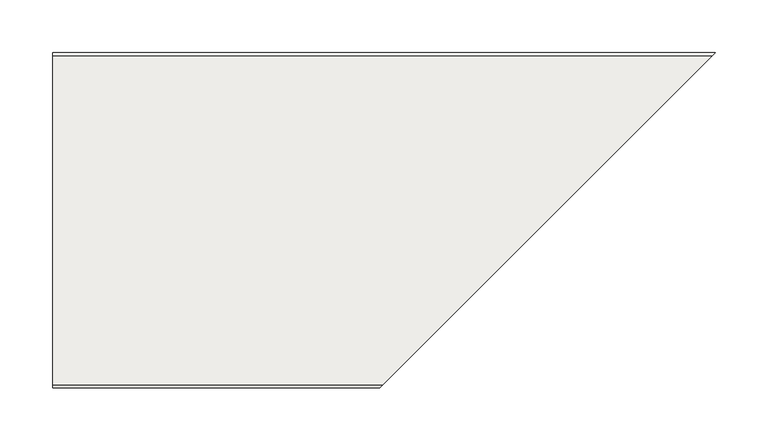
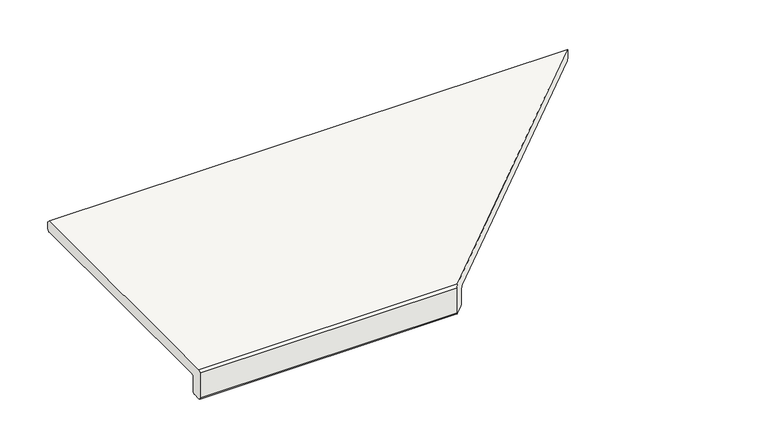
"""IFC4 building model written with IfcOpenShell, lengths in millimetres: slab geometry, ROSA GRES_L62 (corte) : Pieza L62_Serena_Ocra_Anti-Slip."""

from ifc_helpers import new_model, si_unit, frame, origin, place, context, project, spatial, polyline, circle_curve, ellipse_curve, source, transform, mapped, element, save
from ifc_brep_helpers import plane_surface, cylinder_surface, revolved_surface, advanced_brep


def slab_b6999f09(model_context):
    return source(origin(), model_context, "Body", "AdvancedBrep", [
        advanced_brep(
        [(0.0, 0.0, -20.5), (0.0, 0.0, 11.5), (0.0, 2.5, 14.0), (0.0, 314.5, 14.0), (0.0, 317.0, 11.5), (0.0, 317.0, 2.5), (0.0, 314.5, 0.0), (0.0, 16.5, 0.0), (0.0, 14.0, -2.5), (0.0, 14.0, -20.5), (0.0, 11.5, -23.0), (0.0, 2.5, -23.0), (308.5, 0.0, 11.5), (311.0, 2.5, 14.0), (623.0, 314.5, 14.0), (625.5, 317.0, 11.5), (320.0, 11.5, -23.0), (311.0, 2.5, -23.0), (625.5, 317.0, 2.5), (623.0, 314.5, 0.0), (308.5, 0.0, -20.5), (322.5, 14.0, -20.5), (325.0, 16.5, 0.0), (322.5, 14.0, -2.5)],
        [
            (0, 1),
            (1, 2),
            (2, 3),
            (3, 4),
            (4, 5),
            (5, 6, circle_curve(frame((0.0, 314.5, 2.5), z_axis=(-1.0, 0.0, 0.0), x_axis=(0.0, 0.0, -1.0)), 2.5)),
            (6, 7),
            (7, 8, circle_curve(frame((0.0, 16.5, -2.5), z_axis=(1.0, 0.0, 0.0), x_axis=(0.0, 0.0, -1.0)), 2.5)),
            (8, 9),
            (9, 10, circle_curve(frame((0.0, 11.5, -20.5), z_axis=(-1.0, 0.0, 0.0), x_axis=(0.0, 0.0, -1.0)), 2.5)),
            (10, 11),
            (11, 0, circle_curve(frame((0.0, 2.5, -20.5), z_axis=(-1.0, 0.0, 0.0), x_axis=(0.0, 0.0, -1.0)), 2.5)),
            (1, 12),
            (12, 13),
            (13, 2),
            (3, 14),
            (14, 15),
            (15, 4),
            (10, 16),
            (16, 17),
            (17, 11),
            (5, 18),
            (18, 19, ellipse_curve(frame((623.0, 314.5, 2.5), z_axis=(-0.7071067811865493, 0.7071067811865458, 0.0), x_axis=(-0.7071067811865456, -0.7071067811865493, 0.0)), 3.5355339, 2.5)),
            (19, 6),
            (15, 18),
            (0, 20),
            (20, 12),
            (17, 20, ellipse_curve(frame((311.0, 2.5, -20.5), z_axis=(-0.7071067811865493, 0.7071067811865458, 0.0), x_axis=(-0.7071067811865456, -0.7071067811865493, 0.0)), 3.5355339, 2.5)),
            (9, 21),
            (21, 16, ellipse_curve(frame((320.0, 11.5, -20.5), z_axis=(-0.7071067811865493, 0.7071067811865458, 0.0), x_axis=(-0.7071067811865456, -0.7071067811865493, 0.0)), 3.5355339, 2.5)),
            (13, 14),
            (19, 22),
            (22, 7),
            (22, 23, ellipse_curve(frame((325.0, 16.5, -2.5), z_axis=(0.7071067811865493, -0.7071067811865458, 0.0), x_axis=(0.7071067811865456, 0.7071067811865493, 0.0)), 3.5355339, 2.5)),
            (23, 8),
            (23, 21),
        ],
        [
            plane_surface(frame((0.0, 0.0, 0.0), z_axis=(-1.0, 0.0, 0.0), x_axis=(0.0, 0.0, 1.0))),
            plane_surface(frame((0.0, 0.0, 11.5), z_axis=(0.0, -0.707106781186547, 0.7071067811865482), x_axis=(1.0, 0.0, 0.0))),
            plane_surface(frame((0.0, 314.5, 14.0), z_axis=(0.0, 0.707106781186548, 0.707106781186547), x_axis=(1.0, 0.0, 0.0))),
            plane_surface(frame((0.0, 11.5, -23.0), z_axis=(0.0, 0.0, -1.0), x_axis=(1.0, 0.0, 0.0))),
            cylinder_surface(frame((0.0, 314.5, 2.5), z_axis=(-1.0, 0.0, 0.0), x_axis=(0.0, 0.0, -1.0)), 2.5),
            plane_surface(frame((0.0, 317.0, 11.5), z_axis=(0.0, 1.0, 0.0), x_axis=(1.0, 0.0, 0.0))),
            plane_surface(frame((0.0, 0.0, -20.5), z_axis=(0.0, -1.0, 0.0), x_axis=(1.0, 0.0, 0.0))),
            cylinder_surface(frame((0.0, 2.5, -20.5), z_axis=(-1.0, 0.0, 0.0), x_axis=(0.0, 0.0, -1.0)), 2.5),
            cylinder_surface(frame((0.0, 11.5, -20.5), z_axis=(-1.0, 0.0, 0.0), x_axis=(0.0, 0.0, -1.0)), 2.5),
            plane_surface(frame((0.0, 2.5, 14.0), z_axis=(0.0, 0.0, 1.0), x_axis=(1.0, 0.0, 0.0))),
            plane_surface(frame((0.0, 314.5, 0.0), z_axis=(0.0, 0.0, -1.0), x_axis=(1.0, 0.0, 0.0))),
            revolved_surface(polyline([(327.4999999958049, 16.5, -5.0), (0.0, 16.5, -5.0)]), (0.0, 16.5, -2.5), (1.0, 0.0, 0.0)),
            plane_surface(frame((0.0, 14.0, -2.5), z_axis=(0.0, 1.0, 0.0), x_axis=(1.0, 0.0, 0.0))),
            plane_surface(frame((626.0, 317.5, 86.9871832), z_axis=(0.7071067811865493, -0.7071067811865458, 0.0), x_axis=(0.0, 0.0, -1.0))),
        ],
        [
            (0, [[1, 2, 3, 4, 5, 6, 7, 8, 9, 10, 11, 12]]),
            (1, [[-2, 13, 14, 15]]),
            (2, [[-4, 16, 17, 18]]),
            (3, [[-11, 19, 20, 21]]),
            (4, [[-6, 22, 23, 24]]),
            (5, [[-5, -18, 25, -22]]),
            (6, [[-1, 26, 27, -13]]),
            (7, [[-12, -21, 28, -26]]),
            (8, [[-10, 29, 30, -19]]),
            (9, [[-3, -15, 31, -16]]),
            (10, [[-7, -24, 32, 33]]),
            (11, [[-8, -33, 34, 35]]),
            (12, [[-9, -35, 36, -29]]),
            (13, [[-27, -28, -20, -30, -36, -34, -32, -23, -25, -17, -31, -14]]),
        ],
    ),
    ])


if __name__ == "__main__":
    model = new_model("IFC4")
    model_context = context("Model", 3, world=origin())
    ifc_project = project(units=[si_unit("LENGTHUNIT", "METRE", prefix="MILLI")], contexts=[model_context])
    site = spatial("IfcSite", under=ifc_project)
    building = spatial("IfcBuilding", under=site)
    placement = place(None, origin())
    slab_shape = slab_b6999f09(model_context)
    element("IfcSlab", 1, ObjectType="ROSA GRES_L62 (corte) : Pieza L62_Serena_Ocra_Anti-Slip", at=placement, inside=building, context=model_context, shape_type="MappedRepresentation", body=[
        mapped(slab_shape, transform((0.0, 0.0, 0.0), x_axis=(1.0, 0.0, 0.0), y_axis=(0.0, 1.0, 0.0), z_axis=(0.0, 0.0, 1.0))),
    ])
    save(model, "model.ifc")
